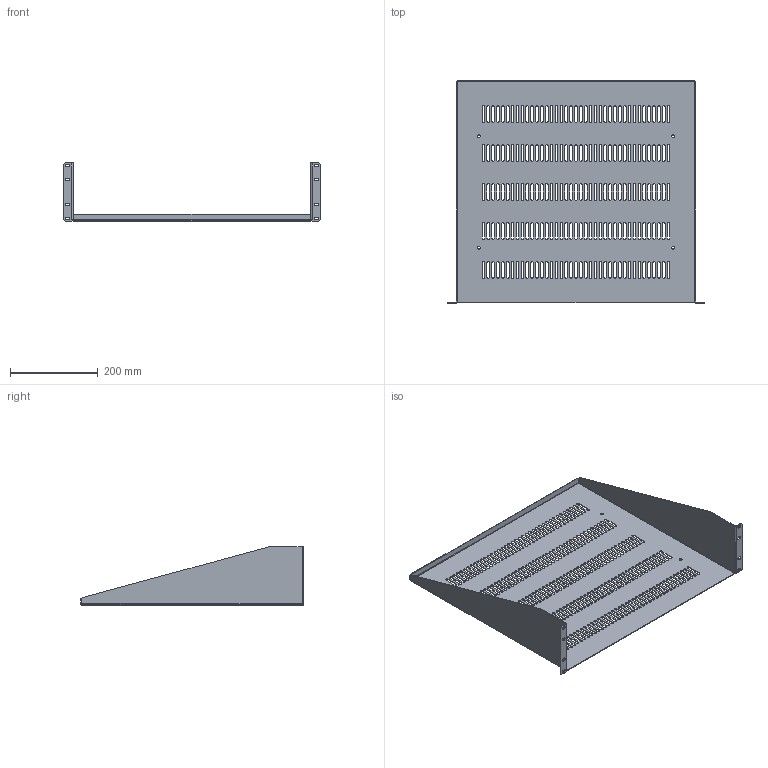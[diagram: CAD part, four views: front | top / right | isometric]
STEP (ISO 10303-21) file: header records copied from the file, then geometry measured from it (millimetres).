
FILE_DESCRIPTION( ( 'Unknown' ), '1' );
FILE_NAME( 'Q:/ACCESSORIES/SHELVES/RK _ RMA/WEB DRAWINGS/STEP/RASV230520.stp', 'Unknown', ( 'Unknown' ), ( 'Unknown' ), 'PSStep 10.1', 'Unknown', ' ' );
FILE_SCHEMA( ( 'AUTOMOTIVE_DESIGN { 1 0 10303 214 1 1 1 1 }' ) );
Length unit declared in the file: millimetre
Products named in the file (1): 1
Bounding box: 584.35 x 508 x 132.54 mm (x, y, z)
Volume: 598088.3 mm3; surface area: 688855.2 mm2
Topology: 1 solids, 1 shells, 880 faces, 2614 edges, 1736 vertices
Faces by surface type: plane 446, cylinder 430, bspline 4
Full cylindrical faces by diameter (mm): 6.35 x4
Entity records: 30745 total; most frequent: CARTESIAN_POINT 5523, ORIENTED_EDGE 5220, DIRECTION 5204, EDGE_CURVE 2610, AXIS2_PLACEMENT_3D 1737, VERTEX_POINT 1736, LINE 1730, VECTOR 1730
